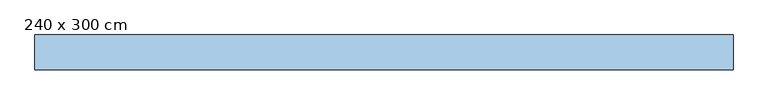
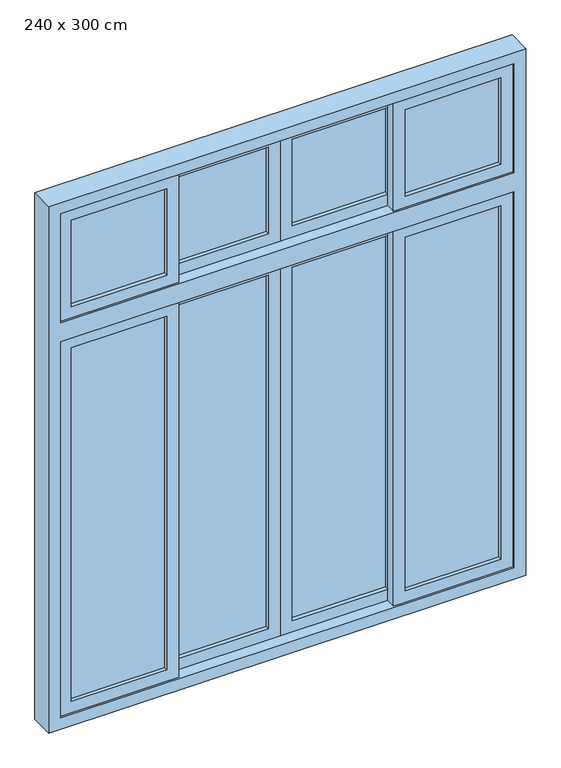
"""IFC4 building model written with IfcOpenShell, lengths in millimetres: window geometry, 四開窗-含氣窗- (1) : 240 x 300 cm."""

from ifc_helpers import new_model, si_unit, frame, origin, place, context, project, spatial, polyline, outline, extrude, source, transform, mapped, element, save


def window_240_x_300_cm_7bb334d8(model_context):
    return source(origin(), model_context, "Body", "SweptSolid", [
        extrude(outline(polyline([(2940.0, -1140.0), (2360.0, -1140.0), (2360.0, -540.0), (2940.0, -540.0), (2940.0, -1140.0)]), holes=[polyline([(2880.0, -1080.0), (2880.0, -600.0), (2420.0, -600.0), (2420.0, -1080.0), (2880.0, -1080.0)])]), frame((0.0, -230.0, 0.0), z_axis=(0.0, 1.0, 0.0), x_axis=(0.0, 0.0, 1.0)), (0.0, 0.0, 1.0), 50.0),
        extrude(outline(polyline([(-600.0, -200.0), (-600.0, -210.0), (-1080.0, -210.0), (-1080.0, -200.0), (-600.0, -200.0)])), frame((0.0, 0.0, 2420.0), z_axis=(0.0, 0.0, 1.0), x_axis=(1.0, 0.0, 0.0)), (0.0, 0.0, 1.0), 460.0),
        extrude(outline(polyline([(2940.0, -600.0), (2360.0, -600.0), (2360.0, 0.0), (2940.0, 0.0), (2940.0, -600.0)]), holes=[polyline([(2880.0, -540.0), (2880.0, -60.0), (2420.0, -60.0), (2420.0, -540.0), (2880.0, -540.0)])]), frame((0.0, -180.0, 0.0), z_axis=(0.0, 1.0, 0.0), x_axis=(0.0, 0.0, 1.0)), (0.0, 0.0, 1.0), 50.0),
        extrude(outline(polyline([(-60.0, -160.0), (-540.0, -160.0), (-540.0, -150.0), (-60.0, -150.0), (-60.0, -160.0)])), frame((0.0, 0.0, 2420.0), z_axis=(0.0, 0.0, 1.0), x_axis=(1.0, 0.0, 0.0)), (0.0, 0.0, 1.0), 460.0),
        extrude(outline(polyline([(2940.0, 1140.0), (2940.0, 540.0), (2360.0, 540.0), (2360.0, 1140.0), (2940.0, 1140.0)]), holes=[polyline([(2880.0, 1080.0), (2420.0, 1080.0), (2420.0, 600.0), (2880.0, 600.0), (2880.0, 1080.0)])]), frame((0.0, -230.0, 0.0), z_axis=(0.0, 1.0, 0.0), x_axis=(0.0, 0.0, 1.0)), (0.0, 0.0, 1.0), 50.0),
        extrude(outline(polyline([(600.0, -200.0), (1080.0, -200.0), (1080.0, -210.0), (600.0, -210.0), (600.0, -200.0)])), frame((0.0, 0.0, 2420.0), z_axis=(0.0, 0.0, 1.0), x_axis=(1.0, 0.0, 0.0)), (0.0, 0.0, 1.0), 460.0),
        extrude(outline(polyline([(2940.0, 600.0), (2940.0, 0.0), (2360.0, 0.0), (2360.0, 600.0), (2940.0, 600.0)]), holes=[polyline([(2880.0, 540.0), (2420.0, 540.0), (2420.0, 60.0), (2880.0, 60.0), (2880.0, 540.0)])]), frame((0.0, -180.0, 0.0), z_axis=(0.0, 1.0, 0.0), x_axis=(0.0, 0.0, 1.0)), (0.0, 0.0, 1.0), 50.0),
        extrude(outline(polyline([(60.0, -160.0), (60.0, -150.0), (540.0, -150.0), (540.0, -160.0), (60.0, -160.0)])), frame((0.0, 0.0, 2420.0), z_axis=(0.0, 0.0, 1.0), x_axis=(1.0, 0.0, 0.0)), (0.0, 0.0, 1.0), 460.0),
        extrude(outline(polyline([(2260.0, -1140.0), (260.0, -1140.0), (260.0, -540.0), (2260.0, -540.0), (2260.0, -1140.0)]), holes=[polyline([(2200.0, -1080.0), (2200.0, -600.0), (320.0, -600.0), (320.0, -1080.0), (2200.0, -1080.0)])]), frame((0.0, -230.0, 0.0), z_axis=(0.0, 1.0, 0.0), x_axis=(0.0, 0.0, 1.0)), (0.0, 0.0, 1.0), 50.0),
        extrude(outline(polyline([(-600.0, -200.0), (-600.0, -210.0), (-1080.0, -210.0), (-1080.0, -200.0), (-600.0, -200.0)])), frame((0.0, 0.0, 320.0), z_axis=(0.0, 0.0, 1.0), x_axis=(1.0, 0.0, 0.0)), (0.0, 0.0, 1.0), 1880.0),
        extrude(outline(polyline([(2260.0, -600.0), (260.0, -600.0), (260.0, 0.0), (2260.0, 0.0), (2260.0, -600.0)]), holes=[polyline([(2200.0, -540.0), (2200.0, -60.0), (320.0, -60.0), (320.0, -540.0), (2200.0, -540.0)])]), frame((0.0, -180.0, 0.0), z_axis=(0.0, 1.0, 0.0), x_axis=(0.0, 0.0, 1.0)), (0.0, 0.0, 1.0), 50.0),
        extrude(outline(polyline([(-60.0, -160.0), (-540.0, -160.0), (-540.0, -150.0), (-60.0, -150.0), (-60.0, -160.0)])), frame((0.0, 0.0, 320.0), z_axis=(0.0, 0.0, 1.0), x_axis=(1.0, 0.0, 0.0)), (0.0, 0.0, 1.0), 1880.0),
        extrude(outline(polyline([(2260.0, 1140.0), (2260.0, 540.0), (260.0, 540.0), (260.0, 1140.0), (2260.0, 1140.0)]), holes=[polyline([(2200.0, 1080.0), (320.0, 1080.0), (320.0, 600.0), (2200.0, 600.0), (2200.0, 1080.0)])]), frame((0.0, -230.0, 0.0), z_axis=(0.0, 1.0, 0.0), x_axis=(0.0, 0.0, 1.0)), (0.0, 0.0, 1.0), 50.0),
        extrude(outline(polyline([(600.0, -200.0), (1080.0, -200.0), (1080.0, -210.0), (600.0, -210.0), (600.0, -200.0)])), frame((0.0, 0.0, 320.0), z_axis=(0.0, 0.0, 1.0), x_axis=(1.0, 0.0, 0.0)), (0.0, 0.0, 1.0), 1880.0),
        extrude(outline(polyline([(2260.0, 600.0), (2260.0, 0.0), (260.0, 0.0), (260.0, 600.0), (2260.0, 600.0)]), holes=[polyline([(2200.0, 540.0), (320.0, 540.0), (320.0, 60.0), (2200.0, 60.0), (2200.0, 540.0)])]), frame((0.0, -180.0, 0.0), z_axis=(0.0, 1.0, 0.0), x_axis=(0.0, 0.0, 1.0)), (0.0, 0.0, 1.0), 50.0),
        extrude(outline(polyline([(60.0, -160.0), (60.0, -150.0), (540.0, -150.0), (540.0, -160.0), (60.0, -160.0)])), frame((0.0, 0.0, 320.0), z_axis=(0.0, 0.0, 1.0), x_axis=(1.0, 0.0, 0.0)), (0.0, 0.0, 1.0), 1880.0),
        extrude(outline(polyline([(3000.0, 1200.0), (3000.0, -1200.0), (200.0, -1200.0), (200.0, 1200.0), (3000.0, 1200.0)]), holes=[polyline([(2940.0, 1140.0), (2360.0, 1140.0), (2360.0, -1140.0), (2940.0, -1140.0), (2940.0, 1140.0)]), polyline([(2260.0, -1140.0), (2260.0, 1140.0), (260.0, 1140.0), (260.0, -1140.0), (2260.0, -1140.0)])]), frame((0.0, -240.0, 0.0), z_axis=(0.0, 1.0, 0.0), x_axis=(0.0, 0.0, 1.0)), (0.0, 0.0, 1.0), 120.0),
    ])


if __name__ == "__main__":
    model = new_model("IFC4")
    model_context = context("Model", 3, world=origin())
    ifc_project = project(units=[si_unit("LENGTHUNIT", "METRE", prefix="MILLI")], contexts=[model_context])
    site = spatial("IfcSite", under=ifc_project)
    building = spatial("IfcBuilding", under=site)
    placement = place(None, origin())
    window_240_x_300_cm_shape = window_240_x_300_cm_7bb334d8(model_context)
    element("IfcWindow", 1, ObjectType="四開窗-含氣窗- (1) : 240 x 300 cm", at=placement, inside=building, context=model_context, shape_type="MappedRepresentation", body=[
        mapped(window_240_x_300_cm_shape, transform((0.0, 0.0, 0.0), x_axis=(1.0, 0.0, 0.0), y_axis=(0.0, 1.0, 0.0), z_axis=(0.0, 0.0, 1.0))),
    ])
    save(model, "model.ifc")
